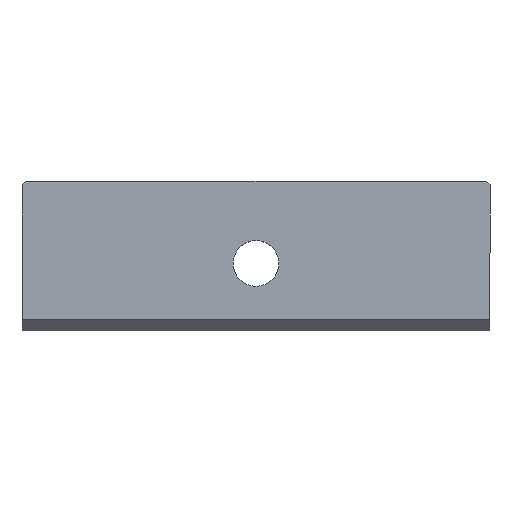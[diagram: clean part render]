
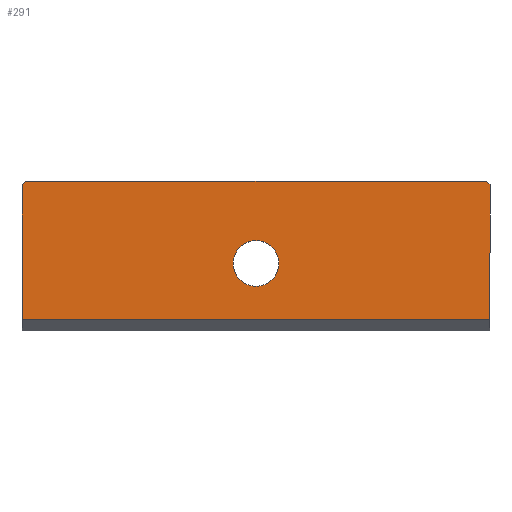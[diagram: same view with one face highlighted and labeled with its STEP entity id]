
A CAD part, top view. The second image highlights one B-rep face of the part: STEP entity #291.
In plain terms, the highlighted planar face has unit normal (0, 0, 1).
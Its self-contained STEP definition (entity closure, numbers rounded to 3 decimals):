
#25 = ORIENTED_EDGE ( 'NONE', *, *, #349, .F. ) ;
#27 = CARTESIAN_POINT ( 'NONE',  ( -124., 0., 0. ) ) ;
#42 = VECTOR ( 'NONE', #439, 1000. ) ;
#56 = CARTESIAN_POINT ( 'NONE',  ( 0., -1., 0. ) ) ;
#70 = CARTESIAN_POINT ( 'NONE',  ( -125., -37., 0. ) ) ;
#73 = CIRCLE ( 'NONE', #537, 6.1 ) ;
#86 = DIRECTION ( 'NONE',  ( -0.707, 0.707, 0. ) ) ;
#99 = CARTESIAN_POINT ( 'NONE',  ( -62.5, -22., 0. ) ) ;
#100 = VERTEX_POINT ( 'NONE', #604 ) ;
#145 = ORIENTED_EDGE ( 'NONE', *, *, #418, .T. ) ;
#158 = CARTESIAN_POINT ( 'NONE',  ( -125., -40., 0. ) ) ;
#160 = ORIENTED_EDGE ( 'NONE', *, *, #455, .T. ) ;
#187 = VECTOR ( 'NONE', #668, 1000. ) ;
#192 = EDGE_LOOP ( 'NONE', ( #415, #160, #258, #910, #25, #400 ) ) ;
#199 = FACE_BOUND ( 'NONE', #273, .T. ) ;
#205 = EDGE_CURVE ( 'NONE', #772, #100, #247, .T. ) ;
#230 = LINE ( 'NONE', #70, #42 ) ;
#236 = AXIS2_PLACEMENT_3D ( 'NONE', #457, #253, #833 ) ;
#247 = LINE ( 'NONE', #682, #586 ) ;
#253 = DIRECTION ( 'NONE',  ( 0., 0., 1. ) ) ;
#258 = ORIENTED_EDGE ( 'NONE', *, *, #852, .T. ) ;
#259 = DIRECTION ( 'NONE',  ( 0., 1., 0. ) ) ;
#273 = EDGE_LOOP ( 'NONE', ( #145, #463 ) ) ;
#291 = ADVANCED_FACE ( 'NONE', ( #199, #460 ), #321, .T. ) ;
#295 = CARTESIAN_POINT ( 'NONE',  ( 0., -37., 0. ) ) ;
#303 = VERTEX_POINT ( 'NONE', #390 ) ;
#317 = DIRECTION ( 'NONE',  ( 0., 0., -1. ) ) ;
#321 = PLANE ( 'NONE',  #236 ) ;
#349 = EDGE_CURVE ( 'NONE', #535, #633, #605, .T. ) ;
#350 = CARTESIAN_POINT ( 'NONE',  ( -125., -1., 0. ) ) ;
#390 = CARTESIAN_POINT ( 'NONE',  ( -62.5, -15.9, 0. ) ) ;
#400 = ORIENTED_EDGE ( 'NONE', *, *, #830, .T. ) ;
#405 = VECTOR ( 'NONE', #687, 1000. ) ;
#415 = ORIENTED_EDGE ( 'NONE', *, *, #205, .F. ) ;
#418 = EDGE_CURVE ( 'NONE', #303, #879, #73, .T. ) ;
#439 = DIRECTION ( 'NONE',  ( 1., 0., 0. ) ) ;
#451 = VERTEX_POINT ( 'NONE', #841 ) ;
#452 = CARTESIAN_POINT ( 'NONE',  ( -43., 42., 0. ) ) ;
#455 = EDGE_CURVE ( 'NONE', #772, #614, #533, .T. ) ;
#457 = CARTESIAN_POINT ( 'NONE',  ( -125., -40., 0. ) ) ;
#460 = FACE_OUTER_BOUND ( 'NONE', #192, .T. ) ;
#463 = ORIENTED_EDGE ( 'NONE', *, *, #914, .T. ) ;
#474 = CARTESIAN_POINT ( 'NONE',  ( 0., -40., 0. ) ) ;
#487 = LINE ( 'NONE', #452, #639 ) ;
#528 = CARTESIAN_POINT ( 'NONE',  ( -62.5, -28.1, 0. ) ) ;
#530 = CIRCLE ( 'NONE', #746, 6.1 ) ;
#533 = LINE ( 'NONE', #911, #405 ) ;
#535 = VERTEX_POINT ( 'NONE', #56 ) ;
#537 = AXIS2_PLACEMENT_3D ( 'NONE', #767, #760, #259 ) ;
#559 = DIRECTION ( 'NONE',  ( 0., -1., 0. ) ) ;
#586 = VECTOR ( 'NONE', #618, 1000. ) ;
#604 = CARTESIAN_POINT ( 'NONE',  ( -1., 0., 0. ) ) ;
#605 = LINE ( 'NONE', #474, #678 ) ;
#612 = LINE ( 'NONE', #158, #187 ) ;
#614 = VERTEX_POINT ( 'NONE', #350 ) ;
#618 = DIRECTION ( 'NONE',  ( 1., 0., 0. ) ) ;
#633 = VERTEX_POINT ( 'NONE', #295 ) ;
#639 = VECTOR ( 'NONE', #86, 1000. ) ;
#668 = DIRECTION ( 'NONE',  ( 0., -1., 0. ) ) ;
#676 = EDGE_CURVE ( 'NONE', #451, #633, #230, .T. ) ;
#678 = VECTOR ( 'NONE', #559, 1000. ) ;
#682 = CARTESIAN_POINT ( 'NONE',  ( -125., 0., 0. ) ) ;
#683 = DIRECTION ( 'NONE',  ( 0., 1., 0. ) ) ;
#687 = DIRECTION ( 'NONE',  ( -0.707, -0.707, 0. ) ) ;
#746 = AXIS2_PLACEMENT_3D ( 'NONE', #99, #317, #683 ) ;
#760 = DIRECTION ( 'NONE',  ( 0., 0., -1. ) ) ;
#767 = CARTESIAN_POINT ( 'NONE',  ( -62.5, -22., 0. ) ) ;
#772 = VERTEX_POINT ( 'NONE', #27 ) ;
#830 = EDGE_CURVE ( 'NONE', #535, #100, #487, .T. ) ;
#833 = DIRECTION ( 'NONE',  ( 1., 0., 0. ) ) ;
#841 = CARTESIAN_POINT ( 'NONE',  ( -125., -37., 0. ) ) ;
#852 = EDGE_CURVE ( 'NONE', #614, #451, #612, .T. ) ;
#879 = VERTEX_POINT ( 'NONE', #528 ) ;
#910 = ORIENTED_EDGE ( 'NONE', *, *, #676, .T. ) ;
#911 = CARTESIAN_POINT ( 'NONE',  ( -144.5, -20.5, 0. ) ) ;
#914 = EDGE_CURVE ( 'NONE', #879, #303, #530, .T. ) ;
